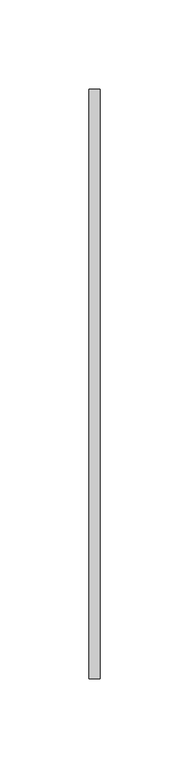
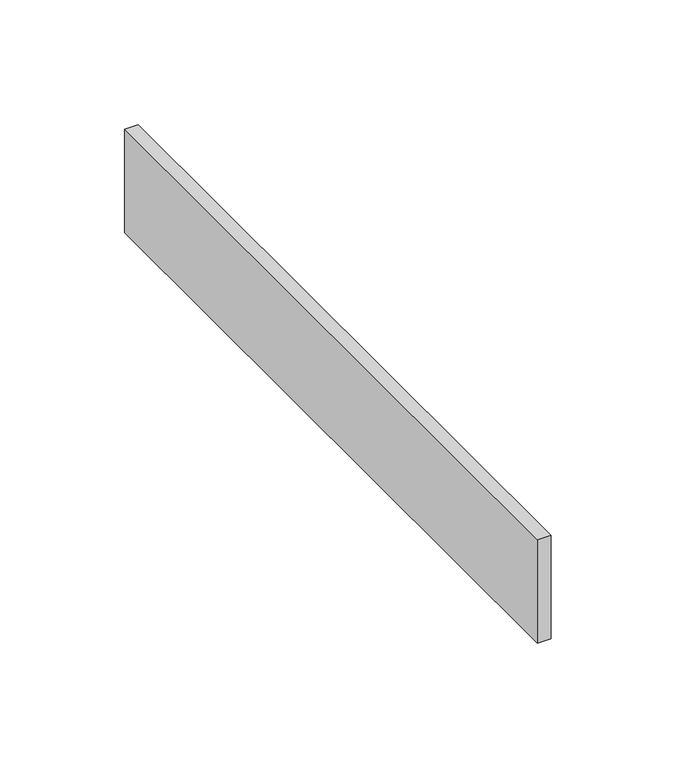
"""IFC4 building model written with IfcOpenShell, lengths in millimetres: beam geometry, Structural Stiffeners 2 : Structural Stiffeners 1."""

from ifc_helpers import new_model, si_unit, frame, origin, place, context, project, spatial, polyline, outline, extrude, source, transform, mapped, element, save


def beam_3386be0e(model_context):
    return source(origin(), model_context, "Body", "SweptSolid", [
        extrude(outline(polyline([(2234.0305289, 2205.9317836), (2240.3805289, 2205.9317836), (2240.3805289, 1874.605878), (2234.0305289, 1874.605878), (2234.0305289, 2205.9317836)])), frame((0.0, 0.0, 1168.4), z_axis=(0.0, 0.0, 1.0), x_axis=(1.0, 0.0, 0.0)), (0.0, 0.0, 1.0), 50.8),
    ])


if __name__ == "__main__":
    model = new_model("IFC4")
    model_context = context("Model", 3, world=origin())
    ifc_project = project(units=[si_unit("LENGTHUNIT", "METRE", prefix="MILLI")], contexts=[model_context])
    site = spatial("IfcSite", under=ifc_project)
    building = spatial("IfcBuilding", under=site)
    placement = place(None, origin())
    beam_shape = beam_3386be0e(model_context)
    element("IfcBeam", 1, ObjectType="Structural Stiffeners 2 : Structural Stiffeners 1", at=placement, inside=building, context=model_context, shape_type="MappedRepresentation", body=[
        mapped(beam_shape, transform((0.0, 0.0, 0.0), x_axis=(1.0, 0.0, 0.0), y_axis=(0.0, 1.0, 0.0), z_axis=(0.0, 0.0, 1.0))),
    ])
    save(model, "model.ifc")
